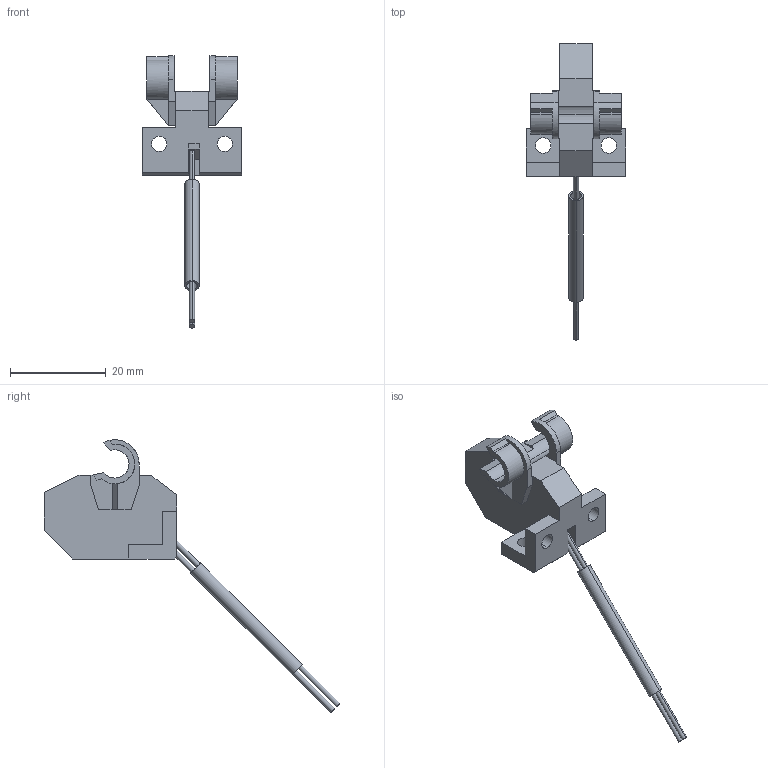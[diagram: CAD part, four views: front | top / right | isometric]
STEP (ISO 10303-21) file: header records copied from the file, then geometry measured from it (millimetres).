
FILE_DESCRIPTION (( 'STEP AP203' ), '1' );
FILE_NAME ('fd-bef64.STEP', '2020-09-24T01:36:53', ( '' ), ( '' ), 'SwSTEP 2.0', 'SolidWorks 2017', '' );
FILE_SCHEMA (( 'CONFIG_CONTROL_DESIGN' ));
Length unit declared in the file: millimetre
Products named in the file (1): fd-bef64
Bounding box: 20.7 x 61.79 x 56.89 mm (x, y, z)
Volume: 4188.2 mm3; surface area: 3414.1 mm2
Topology: 1 solids, 1 shells, 97 faces, 281 edges, 186 vertices
Faces by surface type: plane 67, cylinder 30
Entity records: 3298 total; most frequent: CARTESIAN_POINT 577, ORIENTED_EDGE 562, DIRECTION 547, EDGE_CURVE 281, LINE 203, VECTOR 203, VERTEX_POINT 186, AXIS2_PLACEMENT_3D 172
